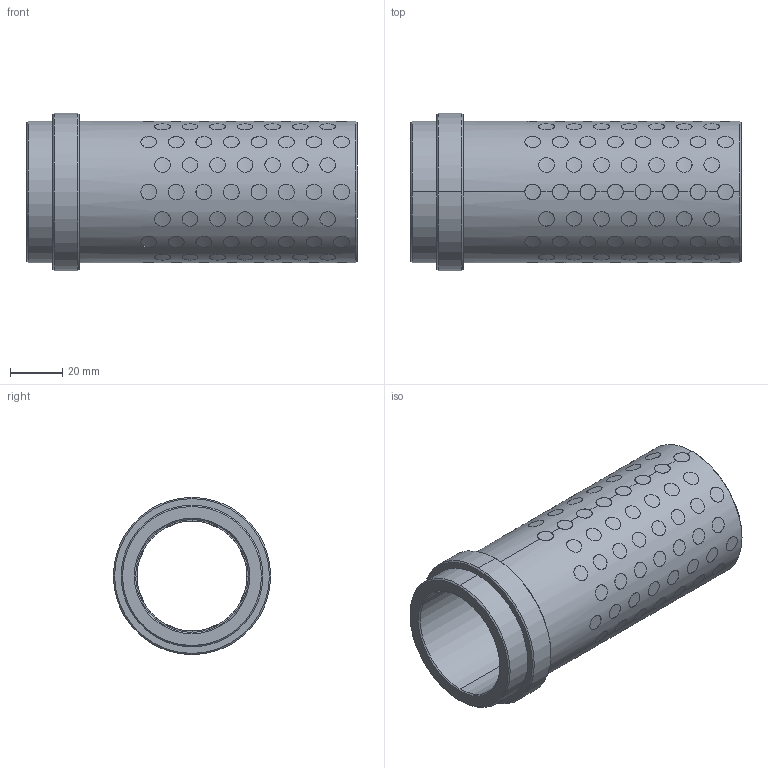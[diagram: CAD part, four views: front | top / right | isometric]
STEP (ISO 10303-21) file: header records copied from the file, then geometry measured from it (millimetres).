
FILE_DESCRIPTION((''),'2;1');
FILE_NAME('G31242116','2017-12-31T',('MANU'),(''),'PRO/ENGINEER BY PARAMETRIC TECHNOLOGY CORPORATION, 2012130','PRO/ENGINEER BY PARAMETRIC TECHNOLOGY CORPORATION, 2012130','');
FILE_SCHEMA(('CONFIG_CONTROL_DESIGN'));
Products named in the file (1): G31242116
Bounding box: 126 x 60 x 60 mm (x, y, z)
Volume: 116242 mm3; surface area: 67934.7 mm2
Topology: 121 solids, 121 shells, 747 faces, 1590 edges, 1056 vertices
Faces by surface type: cylinder 730, cone 12, plane 5
Entity records: 38944 total; most frequent: CARTESIAN_POINT 24423, ORIENTED_EDGE 3180, DIRECTION 2092, EDGE_CURVE 1590, VERTEX_POINT 1056, B_SPLINE_CURVE_WITH_KNOTS 1024, EDGE_LOOP 960, AXIS2_PLACEMENT_3D 779
